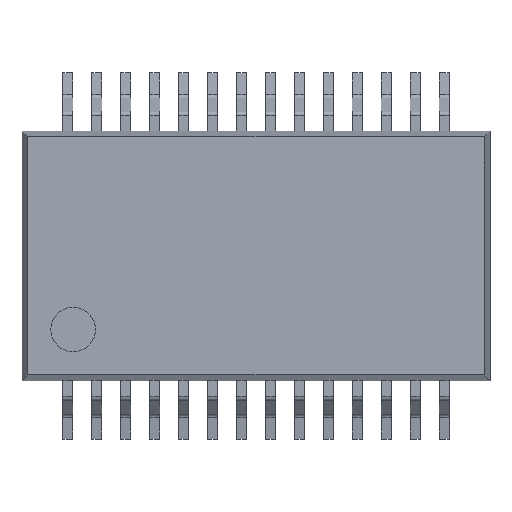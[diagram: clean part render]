
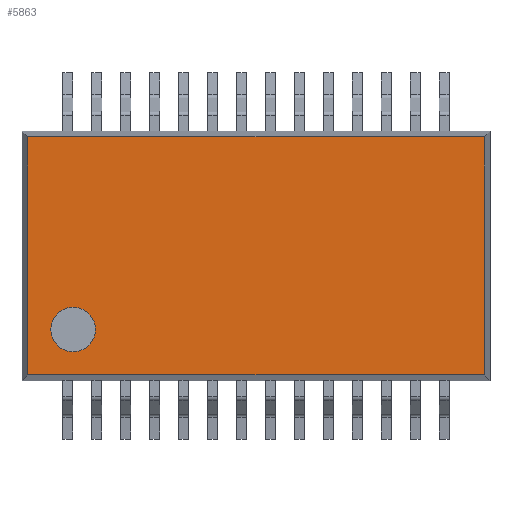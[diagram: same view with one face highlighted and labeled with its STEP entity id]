
A CAD part, top view. The second image highlights one B-rep face of the part: STEP entity #5863.
In plain terms, the highlighted planar face has unit normal (0, 0, 1).
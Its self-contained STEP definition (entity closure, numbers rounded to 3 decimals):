
#5735 = EDGE_CURVE ( 'NONE', #5774, #5768, #17623, .T. ) ;
#5766 = VERTEX_POINT ( 'NONE', #17713 ) ;
#5767 = VERTEX_POINT ( 'NONE', #17710 ) ;
#5768 = VERTEX_POINT ( 'NONE', #17709 ) ;
#5774 = VERTEX_POINT ( 'NONE', #17762 ) ;
#5803 = EDGE_LOOP ( 'NONE', ( #5865, #5878 ) ) ;
#5805 = EDGE_LOOP ( 'NONE', ( #5866, #5817, #5870, #5872 ) ) ;
#5817 = ORIENTED_EDGE ( 'NONE', *, *, #5825, .T. ) ;
#5821 = VERTEX_POINT ( 'NONE', #17872 ) ;
#5824 = VERTEX_POINT ( 'NONE', #17878 ) ;
#5825 = EDGE_CURVE ( 'NONE', #5766, #5821, #17860, .T. ) ;
#5828 = EDGE_CURVE ( 'NONE', #5821, #5824, #17856, .T. ) ;
#5841 = EDGE_CURVE ( 'NONE', #5767, #5766, #17926, .T. ) ;
#5862 = EDGE_CURVE ( 'NONE', #5768, #5774, #18006, .T. ) ;
#5863 = ADVANCED_FACE ( 'NONE', ( #18039, #17970 ), #18092, .T. ) ;
#5865 = ORIENTED_EDGE ( 'NONE', *, *, #5735, .T. ) ;
#5866 = ORIENTED_EDGE ( 'NONE', *, *, #5841, .T. ) ;
#5870 = ORIENTED_EDGE ( 'NONE', *, *, #5828, .T. ) ;
#5872 = ORIENTED_EDGE ( 'NONE', *, *, #5875, .T. ) ;
#5875 = EDGE_CURVE ( 'NONE', #5824, #5767, #18118, .T. ) ;
#5878 = ORIENTED_EDGE ( 'NONE', *, *, #5862, .T. ) ;
#17623 = CIRCLE ( 'NONE', #17666, 0.5 ) ;
#17663 = DIRECTION ( 'NONE',  ( 1., 0., 0. ) ) ;
#17664 = DIRECTION ( 'NONE',  ( 0., 0., -1. ) ) ;
#17665 = CARTESIAN_POINT ( 'NONE',  ( 0.232, 1.147, 0.825 ) ) ;
#17666 = AXIS2_PLACEMENT_3D ( 'NONE', #17665, #17664, #17663 ) ;
#17709 = CARTESIAN_POINT ( 'NONE',  ( -0.268, 1.147, 0.825 ) ) ;
#17710 = CARTESIAN_POINT ( 'NONE',  ( -0.784, 5.469, 0.825 ) ) ;
#17713 = CARTESIAN_POINT ( 'NONE',  ( -0.784, 0.131, 0.825 ) ) ;
#17762 = CARTESIAN_POINT ( 'NONE',  ( 0.732, 1.147, 0.825 ) ) ;
#17855 = CARTESIAN_POINT ( 'NONE',  ( 9.454, 5.6, 0.825 ) ) ;
#17856 = LINE ( 'NONE', #17855, #17904 ) ;
#17857 = DIRECTION ( 'NONE',  ( 1., 0., 0. ) ) ;
#17858 = VECTOR ( 'NONE', #17857, 1000. ) ;
#17859 = CARTESIAN_POINT ( 'NONE',  ( -0.915, 0.131, 0.825 ) ) ;
#17860 = LINE ( 'NONE', #17859, #17858 ) ;
#17872 = CARTESIAN_POINT ( 'NONE',  ( 9.454, 0.131, 0.825 ) ) ;
#17878 = CARTESIAN_POINT ( 'NONE',  ( 9.454, 5.469, 0.825 ) ) ;
#17903 = DIRECTION ( 'NONE',  ( 0., 1., 0. ) ) ;
#17904 = VECTOR ( 'NONE', #17903, 1000. ) ;
#17923 = DIRECTION ( 'NONE',  ( 0., -1., 0. ) ) ;
#17924 = VECTOR ( 'NONE', #17923, 1000. ) ;
#17925 = CARTESIAN_POINT ( 'NONE',  ( -0.784, 5.6, 0.825 ) ) ;
#17926 = LINE ( 'NONE', #17925, #17924 ) ;
#17970 = FACE_OUTER_BOUND ( 'NONE', #5805, .T. ) ;
#18006 = CIRCLE ( 'NONE', #18043, 0.5 ) ;
#18039 = FACE_BOUND ( 'NONE', #5803, .T. ) ;
#18040 = DIRECTION ( 'NONE',  ( 1., 0., 0. ) ) ;
#18041 = DIRECTION ( 'NONE',  ( 0., 0., -1. ) ) ;
#18042 = CARTESIAN_POINT ( 'NONE',  ( 0.232, 1.147, 0.825 ) ) ;
#18043 = AXIS2_PLACEMENT_3D ( 'NONE', #18042, #18041, #18040 ) ;
#18073 = DIRECTION ( 'NONE',  ( -1., 0., 0. ) ) ;
#18074 = CARTESIAN_POINT ( 'NONE',  ( -0.915, 5.469, 0.825 ) ) ;
#18082 = DIRECTION ( 'NONE',  ( 1., 0., 0. ) ) ;
#18083 = DIRECTION ( 'NONE',  ( 0., 0., 1. ) ) ;
#18084 = CARTESIAN_POINT ( 'NONE',  ( -1.482, -0.309, 0.825 ) ) ;
#18085 = AXIS2_PLACEMENT_3D ( 'NONE', #18084, #18083, #18082 ) ;
#18092 = PLANE ( 'NONE',  #18085 ) ;
#18112 = VECTOR ( 'NONE', #18073, 1000. ) ;
#18118 = LINE ( 'NONE', #18074, #18112 ) ;
